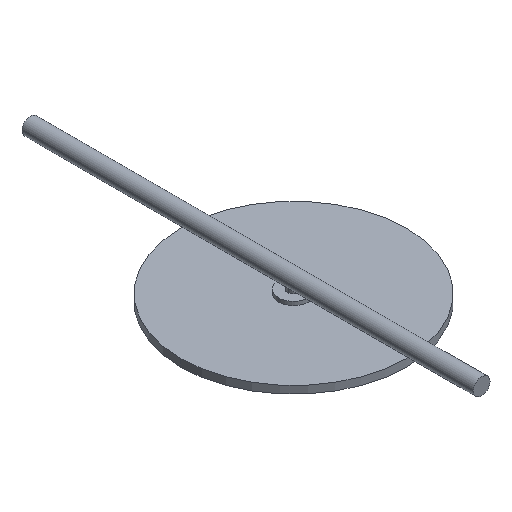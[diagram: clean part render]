
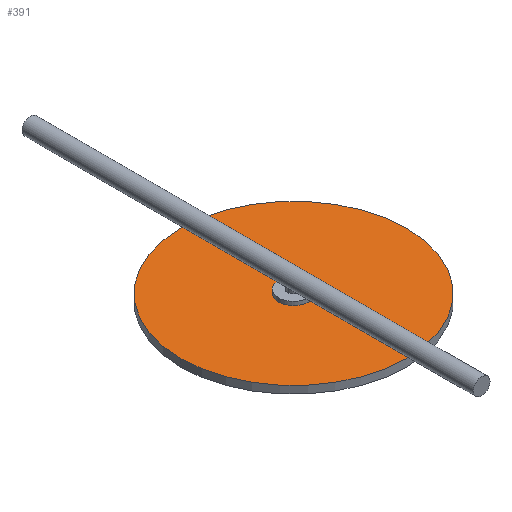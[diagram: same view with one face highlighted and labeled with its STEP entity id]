
A CAD part, isometric view. The second image highlights one B-rep face of the part: STEP entity #391.
In plain terms, the highlighted planar face has unit normal (0, 0, 1).
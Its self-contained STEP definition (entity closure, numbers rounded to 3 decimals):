
#5 = CIRCLE ( 'NONE', #1626, 150. ) ;
#91 = CIRCLE ( 'NONE', #693, 7. ) ;
#191 = FACE_OUTER_BOUND ( 'NONE', #1218, .T. ) ;
#209 = DIRECTION ( 'NONE',  ( 0., 0., 1. ) ) ;
#272 = CIRCLE ( 'NONE', #380, 7. ) ;
#380 = AXIS2_PLACEMENT_3D ( 'NONE', #466, #1231, #1479 ) ;
#391 = ADVANCED_FACE ( 'NONE', ( #1411, #191 ), #638, .T. ) ;
#403 = ORIENTED_EDGE ( 'NONE', *, *, #1384, .T. ) ;
#462 = DIRECTION ( 'NONE',  ( 1., 0., 0. ) ) ;
#466 = CARTESIAN_POINT ( 'NONE',  ( 99.987, -45.899, 620. ) ) ;
#470 = CARTESIAN_POINT ( 'NONE',  ( 99.987, -45.899, 620. ) ) ;
#486 = CIRCLE ( 'NONE', #755, 150. ) ;
#564 = VERTEX_POINT ( 'NONE', #882 ) ;
#638 = PLANE ( 'NONE',  #1453 ) ;
#693 = AXIS2_PLACEMENT_3D ( 'NONE', #1101, #1599, #462 ) ;
#700 = VERTEX_POINT ( 'NONE', #1535 ) ;
#755 = AXIS2_PLACEMENT_3D ( 'NONE', #1489, #1496, #1255 ) ;
#760 = VERTEX_POINT ( 'NONE', #810 ) ;
#810 = CARTESIAN_POINT ( 'NONE',  ( 92.987, -45.899, 620. ) ) ;
#882 = CARTESIAN_POINT ( 'NONE',  ( -50.013, -45.899, 620. ) ) ;
#898 = DIRECTION ( 'NONE',  ( 1., 0., 0. ) ) ;
#965 = ORIENTED_EDGE ( 'NONE', *, *, #1585, .T. ) ;
#1022 = DIRECTION ( 'NONE',  ( 0., 0., 1. ) ) ;
#1088 = EDGE_LOOP ( 'NONE', ( #1191, #1193 ) ) ;
#1101 = CARTESIAN_POINT ( 'NONE',  ( 99.987, -45.899, 620. ) ) ;
#1106 = DIRECTION ( 'NONE',  ( 1., 0., 0. ) ) ;
#1117 = EDGE_CURVE ( 'NONE', #700, #760, #272, .T. ) ;
#1149 = CARTESIAN_POINT ( 'NONE',  ( 99.987, -45.899, 620. ) ) ;
#1152 = VERTEX_POINT ( 'NONE', #1354 ) ;
#1191 = ORIENTED_EDGE ( 'NONE', *, *, #1117, .F. ) ;
#1193 = ORIENTED_EDGE ( 'NONE', *, *, #1199, .F. ) ;
#1199 = EDGE_CURVE ( 'NONE', #760, #700, #91, .T. ) ;
#1218 = EDGE_LOOP ( 'NONE', ( #403, #965 ) ) ;
#1231 = DIRECTION ( 'NONE',  ( 0., 0., 1. ) ) ;
#1255 = DIRECTION ( 'NONE',  ( 1., 0., 0. ) ) ;
#1354 = CARTESIAN_POINT ( 'NONE',  ( 249.987, -45.899, 620. ) ) ;
#1384 = EDGE_CURVE ( 'NONE', #564, #1152, #486, .T. ) ;
#1411 = FACE_BOUND ( 'NONE', #1088, .T. ) ;
#1453 = AXIS2_PLACEMENT_3D ( 'NONE', #1149, #1022, #898 ) ;
#1479 = DIRECTION ( 'NONE',  ( 1., 0., 0. ) ) ;
#1489 = CARTESIAN_POINT ( 'NONE',  ( 99.987, -45.899, 620. ) ) ;
#1496 = DIRECTION ( 'NONE',  ( 0., 0., 1. ) ) ;
#1535 = CARTESIAN_POINT ( 'NONE',  ( 106.987, -45.899, 620. ) ) ;
#1585 = EDGE_CURVE ( 'NONE', #1152, #564, #5, .T. ) ;
#1599 = DIRECTION ( 'NONE',  ( 0., 0., 1. ) ) ;
#1626 = AXIS2_PLACEMENT_3D ( 'NONE', #470, #209, #1106 ) ;
